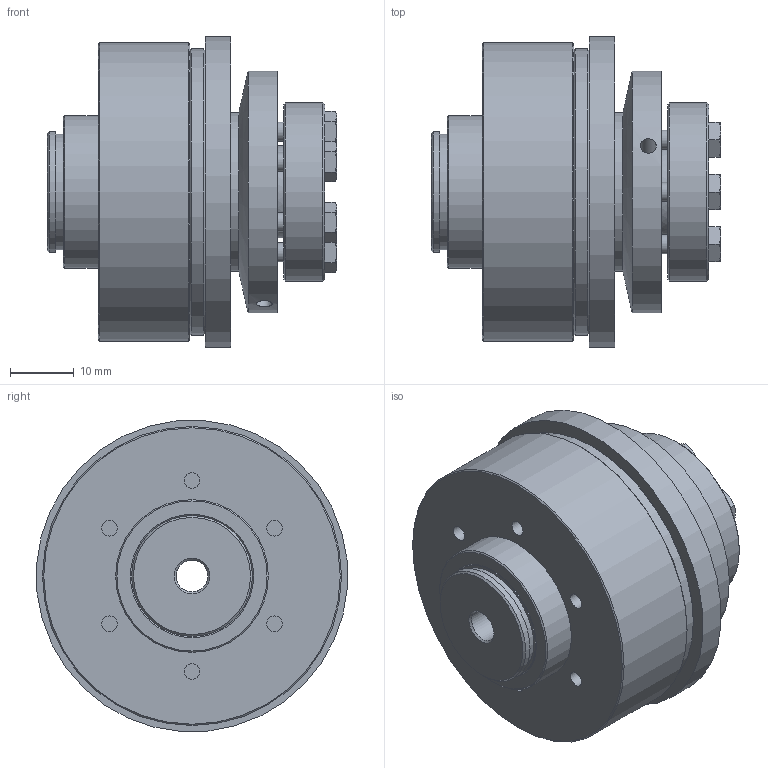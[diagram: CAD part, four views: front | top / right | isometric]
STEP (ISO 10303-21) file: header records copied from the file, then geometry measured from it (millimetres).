
FILE_DESCRIPTION( ( 'Unknown' ), '1' );
FILE_NAME( 'C:/Users/TWalzel/Documents/CAD-Daten/KBK-CA/10/KBK C-A-10.stp', 'Unknown', ( 'Unknown' ), ( 'Unknown' ), 'PSStep 16.0.42', 'Unknown', ' ' );
FILE_SCHEMA( ( 'AUTOMOTIVE_DESIGN { 1 0 10303 214 1 1 1 1 }' ) );
Length unit declared in the file: millimetre
Products named in the file (8): Druckring 10_0; Assem1; Grundkörper C-A-10; din_en_24017_m3x12; Druckring C-A-10; Stellring 10_0; Flansch-Gleitlager CK-7
Assembly tree (12 placements, depth 3):
  Assem1
    Grundkörper C-A-10
    din_en_24017_m3x12  x6
    Druckring C-A-10
    Stellring 10_0
    Flansch-Gleitlager CK-7
    Druckring 10_0
      Druckring 10_0
Bounding box: 45.47 x 48.87 x 48.87 mm (x, y, z)
Volume: 47746.4 mm3; surface area: 23516.7 mm2
Topology: 11 solids, 11 shells, 244 faces, 529 edges, 334 vertices
Faces by surface type: plane 103, cone 73, cylinder 61, torus 7
Full cylindrical faces by diameter (mm): 2.459 x26, 3 x6, 3.5 x6, 4.57 x6, 5 x1, 14.5 x1, 18.2 x1, 19 x3, 24 x3, 25 x1, 28 x1, 29.993 x1, 38 x1, 40 x1, 45 x1, 47 x1, 49 x1
Entity records: 4556 total; most frequent: CARTESIAN_POINT 728, DIRECTION 590, ORIENTED_EDGE 378, AXIS2_PLACEMENT_3D 277, EDGE_LOOP 250, EDGE_CURVE 189, FACE_OUTER_BOUND 187, VERTEX_POINT 163
